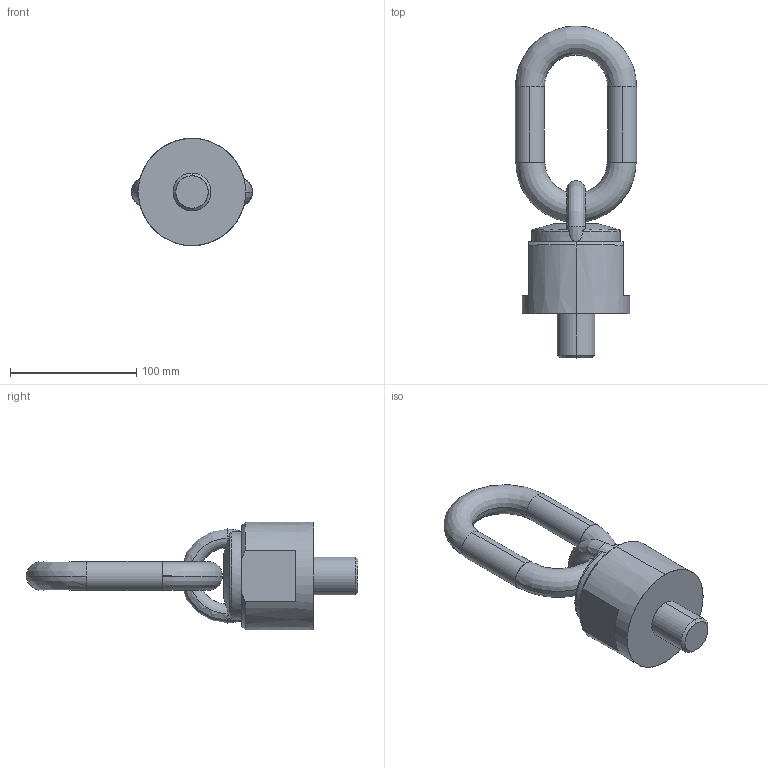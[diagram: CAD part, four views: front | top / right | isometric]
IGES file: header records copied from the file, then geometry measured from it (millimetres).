
Start section: START RECORD GO HERE.
Global section: file name: C8000803035.igs; native system: DASSAULT SYSTEMES CATIA V5 R20 - www.3ds.com; preprocessor: CATIA Version 5 Release 20 ; author: Utente; organization: NB04-ASUS; date: 20200412.161316; units: millimetre
Bounding box: 96 x 263 x 85 mm (x, y, z)
Surface area: 60106.5 mm2 (no closed solid volume)
Topology: 0 solids, 0 shells, 45 faces, 239 edges, 239 vertices
Faces by surface type: revolution 33, extrusion 12
